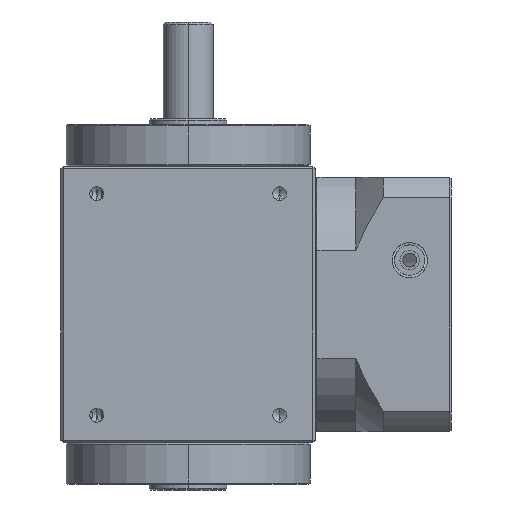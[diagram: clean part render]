
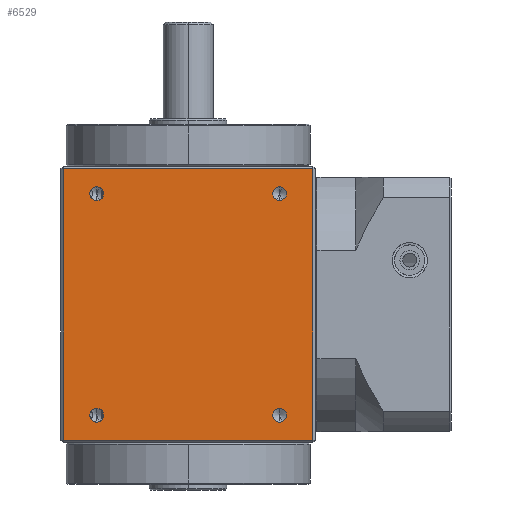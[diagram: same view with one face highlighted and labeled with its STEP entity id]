
A CAD part, left-side view. The second image highlights one B-rep face of the part: STEP entity #6529.
In plain terms, the highlighted planar face has unit normal (-1, 0, 0).
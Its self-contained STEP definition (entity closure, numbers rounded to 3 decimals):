
#44 = LINE ( 'NONE', #580, #55 ) ;
#46 = CIRCLE ( 'NONE', #6278, 2.5 ) ;
#48 = CIRCLE ( 'NONE', #6279, 2.5 ) ;
#49 = CIRCLE ( 'NONE', #6280, 2.5 ) ;
#50 = CIRCLE ( 'NONE', #6281, 2.5 ) ;
#51 = LINE ( 'NONE', #6792, #53 ) ;
#53 = VECTOR ( 'NONE', #575, 1000. ) ;
#54 = LINE ( 'NONE', #585, #57 ) ;
#55 = VECTOR ( 'NONE', #584, 1000. ) ;
#56 = LINE ( 'NONE', #587, #59 ) ;
#57 = VECTOR ( 'NONE', #586, 1000. ) ;
#59 = VECTOR ( 'NONE', #588, 1000. ) ;
#575 = DIRECTION ( 'NONE',  ( 0., 0., 1. ) ) ;
#576 = CARTESIAN_POINT ( 'NONE',  ( -46., -33., 40. ) ) ;
#577 = DIRECTION ( 'NONE',  ( -1., 0., 0. ) ) ;
#578 = DIRECTION ( 'NONE',  ( 0., 0., 1. ) ) ;
#580 = CARTESIAN_POINT ( 'NONE',  ( -46., 46., 49. ) ) ;
#581 = CARTESIAN_POINT ( 'NONE',  ( -46., -33., -40. ) ) ;
#582 = DIRECTION ( 'NONE',  ( -1., 0., 0. ) ) ;
#583 = DIRECTION ( 'NONE',  ( 0., 0., 1. ) ) ;
#584 = DIRECTION ( 'NONE',  ( 0., 1., 0. ) ) ;
#585 = CARTESIAN_POINT ( 'NONE',  ( -46., 45., 50. ) ) ;
#586 = DIRECTION ( 'NONE',  ( 0., 0., -1. ) ) ;
#587 = CARTESIAN_POINT ( 'NONE',  ( -46., -46., -49. ) ) ;
#588 = DIRECTION ( 'NONE',  ( 0., -1., 0. ) ) ;
#2386 = DIRECTION ( 'NONE',  ( 1., 0., 0. ) ) ;
#2390 = PLANE ( 'NONE',  #6476 ) ;
#2392 = CARTESIAN_POINT ( 'NONE',  ( -46., -46., 50. ) ) ;
#2394 = DIRECTION ( 'NONE',  ( 0., 0., -1. ) ) ;
#2644 = FACE_BOUND ( 'NONE', #8240, .T. ) ;
#2645 = FACE_BOUND ( 'NONE', #8256, .T. ) ;
#2646 = FACE_BOUND ( 'NONE', #8290, .T. ) ;
#2648 = FACE_BOUND ( 'NONE', #8291, .T. ) ;
#2649 = FACE_OUTER_BOUND ( 'NONE', #8216, .T. ) ;
#4144 = CARTESIAN_POINT ( 'NONE',  ( -46., 45., -49. ) ) ;
#4145 = CARTESIAN_POINT ( 'NONE',  ( -46., 45., 49. ) ) ;
#4151 = CARTESIAN_POINT ( 'NONE',  ( -46., -45., 49. ) ) ;
#4152 = CARTESIAN_POINT ( 'NONE',  ( -46., -45., -49. ) ) ;
#4219 = CARTESIAN_POINT ( 'NONE',  ( -46., -33., -37.5 ) ) ;
#4220 = CARTESIAN_POINT ( 'NONE',  ( -46., -33., -42.5 ) ) ;
#4260 = DIRECTION ( 'NONE',  ( -1., 0., 0. ) ) ;
#4270 = VERTEX_POINT ( 'NONE', #4744 ) ;
#4279 = VERTEX_POINT ( 'NONE', #4752 ) ;
#4668 = VERTEX_POINT ( 'NONE', #4857 ) ;
#4675 = VERTEX_POINT ( 'NONE', #4866 ) ;
#4688 = VERTEX_POINT ( 'NONE', #4879 ) ;
#4689 = VERTEX_POINT ( 'NONE', #4880 ) ;
#4744 = CARTESIAN_POINT ( 'NONE',  ( -46., -33., 42.5 ) ) ;
#4752 = CARTESIAN_POINT ( 'NONE',  ( -46., -33., 37.5 ) ) ;
#4857 = CARTESIAN_POINT ( 'NONE',  ( -46., 33., 42.5 ) ) ;
#4866 = CARTESIAN_POINT ( 'NONE',  ( -46., 33., 37.5 ) ) ;
#4879 = CARTESIAN_POINT ( 'NONE',  ( -46., 33., -37.5 ) ) ;
#4880 = CARTESIAN_POINT ( 'NONE',  ( -46., 33., -42.5 ) ) ;
#4944 = CARTESIAN_POINT ( 'NONE',  ( -46., 33., -40. ) ) ;
#4945 = DIRECTION ( 'NONE',  ( -1., 0., 0. ) ) ;
#4946 = DIRECTION ( 'NONE',  ( 0., 0., 1. ) ) ;
#5127 = CARTESIAN_POINT ( 'NONE',  ( -46., 33., 40. ) ) ;
#5128 = DIRECTION ( 'NONE',  ( -1., 0., 0. ) ) ;
#5129 = DIRECTION ( 'NONE',  ( 0., 0., 1. ) ) ;
#5215 = CARTESIAN_POINT ( 'NONE',  ( -46., -33., 40. ) ) ;
#5216 = DIRECTION ( 'NONE',  ( -1., 0., 0. ) ) ;
#5217 = DIRECTION ( 'NONE',  ( 0., 0., 1. ) ) ;
#5229 = CARTESIAN_POINT ( 'NONE',  ( -46., -33., -40. ) ) ;
#5230 = DIRECTION ( 'NONE',  ( -1., 0., 0. ) ) ;
#5231 = DIRECTION ( 'NONE',  ( 0., 0., 1. ) ) ;
#5604 = CARTESIAN_POINT ( 'NONE',  ( -46., 33., -40. ) ) ;
#5605 = DIRECTION ( 'NONE',  ( -1., 0., 0. ) ) ;
#5606 = DIRECTION ( 'NONE',  ( 0., 0., 1. ) ) ;
#5607 = CARTESIAN_POINT ( 'NONE',  ( -46., 33., 40. ) ) ;
#5611 = EDGE_CURVE ( 'NONE', #4689, #4688, #8318, .T. ) ;
#5670 = EDGE_CURVE ( 'NONE', #4675, #4668, #8402, .T. ) ;
#5691 = EDGE_CURVE ( 'NONE', #4279, #4270, #8426, .T. ) ;
#5697 = EDGE_CURVE ( 'NONE', #6955, #6954, #8436, .T. ) ;
#5797 = EDGE_CURVE ( 'NONE', #4688, #4689, #46, .T. ) ;
#5798 = EDGE_CURVE ( 'NONE', #4668, #4675, #48, .T. ) ;
#5799 = EDGE_CURVE ( 'NONE', #4270, #4279, #49, .T. ) ;
#5800 = EDGE_CURVE ( 'NONE', #6954, #6955, #50, .T. ) ;
#5801 = EDGE_CURVE ( 'NONE', #6887, #6886, #51, .T. ) ;
#5802 = EDGE_CURVE ( 'NONE', #6886, #6880, #44, .T. ) ;
#5803 = EDGE_CURVE ( 'NONE', #6880, #6879, #54, .T. ) ;
#5804 = EDGE_CURVE ( 'NONE', #6879, #6887, #56, .T. ) ;
#6216 = AXIS2_PLACEMENT_3D ( 'NONE', #4944, #4945, #4946 ) ;
#6237 = AXIS2_PLACEMENT_3D ( 'NONE', #5127, #5128, #5129 ) ;
#6245 = AXIS2_PLACEMENT_3D ( 'NONE', #5215, #5216, #5217 ) ;
#6247 = AXIS2_PLACEMENT_3D ( 'NONE', #5229, #5230, #5231 ) ;
#6278 = AXIS2_PLACEMENT_3D ( 'NONE', #5604, #5605, #5606 ) ;
#6279 = AXIS2_PLACEMENT_3D ( 'NONE', #5607, #4260, #6791 ) ;
#6280 = AXIS2_PLACEMENT_3D ( 'NONE', #576, #577, #578 ) ;
#6281 = AXIS2_PLACEMENT_3D ( 'NONE', #581, #582, #583 ) ;
#6476 = AXIS2_PLACEMENT_3D ( 'NONE', #2392, #2386, #2394 ) ;
#6529 = ADVANCED_FACE ( 'NONE', ( #2646, #2645, #2648, #2644, #2649 ), #2390, .F. ) ;
#6791 = DIRECTION ( 'NONE',  ( 0., 0., 1. ) ) ;
#6792 = CARTESIAN_POINT ( 'NONE',  ( -46., -45., 50. ) ) ;
#6879 = VERTEX_POINT ( 'NONE', #4144 ) ;
#6880 = VERTEX_POINT ( 'NONE', #4145 ) ;
#6886 = VERTEX_POINT ( 'NONE', #4151 ) ;
#6887 = VERTEX_POINT ( 'NONE', #4152 ) ;
#6954 = VERTEX_POINT ( 'NONE', #4219 ) ;
#6955 = VERTEX_POINT ( 'NONE', #4220 ) ;
#6965 = ORIENTED_EDGE ( 'NONE', *, *, #5797, .F. ) ;
#6966 = ORIENTED_EDGE ( 'NONE', *, *, #5611, .F. ) ;
#6967 = ORIENTED_EDGE ( 'NONE', *, *, #5798, .F. ) ;
#6968 = ORIENTED_EDGE ( 'NONE', *, *, #5670, .F. ) ;
#6969 = ORIENTED_EDGE ( 'NONE', *, *, #5799, .F. ) ;
#6970 = ORIENTED_EDGE ( 'NONE', *, *, #5691, .F. ) ;
#6971 = ORIENTED_EDGE ( 'NONE', *, *, #5800, .F. ) ;
#6972 = ORIENTED_EDGE ( 'NONE', *, *, #5697, .F. ) ;
#6973 = ORIENTED_EDGE ( 'NONE', *, *, #5801, .T. ) ;
#6974 = ORIENTED_EDGE ( 'NONE', *, *, #5802, .T. ) ;
#6975 = ORIENTED_EDGE ( 'NONE', *, *, #5803, .T. ) ;
#6976 = ORIENTED_EDGE ( 'NONE', *, *, #5804, .T. ) ;
#8216 = EDGE_LOOP ( 'NONE', ( #6973, #6974, #6975, #6976 ) ) ;
#8240 = EDGE_LOOP ( 'NONE', ( #6971, #6972 ) ) ;
#8256 = EDGE_LOOP ( 'NONE', ( #6967, #6968 ) ) ;
#8290 = EDGE_LOOP ( 'NONE', ( #6965, #6966 ) ) ;
#8291 = EDGE_LOOP ( 'NONE', ( #6969, #6970 ) ) ;
#8318 = CIRCLE ( 'NONE', #6216, 2.5 ) ;
#8402 = CIRCLE ( 'NONE', #6237, 2.5 ) ;
#8426 = CIRCLE ( 'NONE', #6245, 2.5 ) ;
#8436 = CIRCLE ( 'NONE', #6247, 2.5 ) ;
